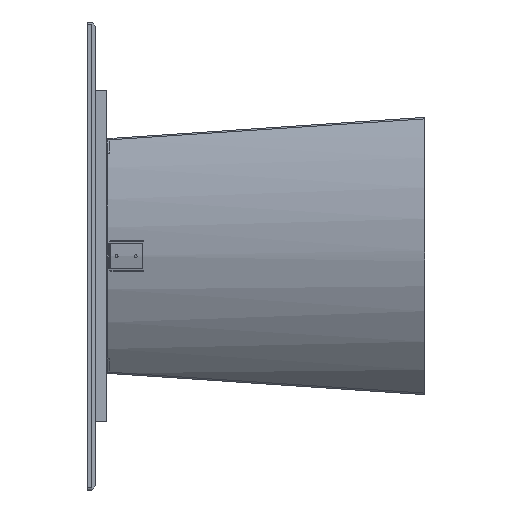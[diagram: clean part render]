
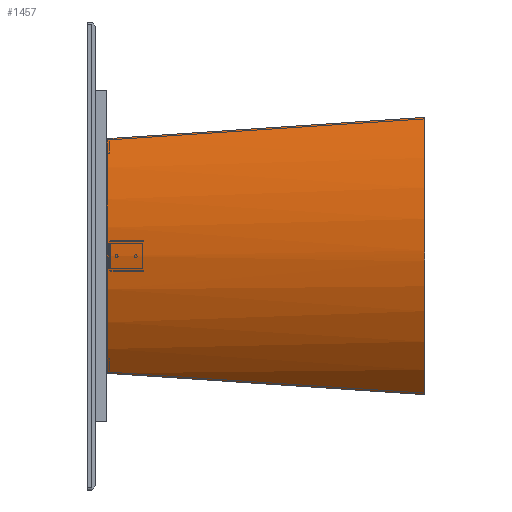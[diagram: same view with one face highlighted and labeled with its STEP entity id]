
A CAD part, left-side view. The second image highlights one B-rep face of the part: STEP entity #1457.
In plain terms, the highlighted cylindrical face has radius 455 mm (diameter 910 mm), a partial arc.
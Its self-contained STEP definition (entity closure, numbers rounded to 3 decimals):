
#158 = CARTESIAN_POINT ( 'NONE',  ( -126.14, 1.243, -3.458 ) ) ;
#187 = CARTESIAN_POINT ( 'NONE',  ( 231.469, 1.123, -48.677 ) ) ;
#377 = CARTESIAN_POINT ( 'NONE',  ( 0., 720., -186.04 ) ) ;
#430 = CARTESIAN_POINT ( 'NONE',  ( 298.867, 241.995, -177.363 ) ) ;
#452 = ORIENTED_EDGE ( 'NONE', *, *, #6420, .T. ) ;
#641 = CARTESIAN_POINT ( 'NONE',  ( -265.753, 720., -274.535 ) ) ;
#660 = CARTESIAN_POINT ( 'NONE',  ( -298.867, 241.995, -177.363 ) ) ;
#732 = EDGE_CURVE ( 'NONE', #8579, #3750, #3362, .T. ) ;
#962 = CARTESIAN_POINT ( 'NONE',  ( -265.753, 720., -274.535 ) ) ;
#1062 = CARTESIAN_POINT ( 'NONE',  ( -314.022, 0.906, -129.942 ) ) ;
#1376 = CARTESIAN_POINT ( 'NONE',  ( 282.752, 482.074, -225.637 ) ) ;
#1457 = ADVANCED_FACE ( 'NONE', ( #3130 ), #4345, .T. ) ;
#1617 = ORIENTED_EDGE ( 'NONE', *, *, #5595, .F. ) ;
#1703 = EDGE_CURVE ( 'NONE', #9450, #8579, #7478, .T. ) ;
#1944 = CARTESIAN_POINT ( 'NONE',  ( 96.167, 720., -186.04 ) ) ;
#2229 = VERTEX_POINT ( 'NONE', #2381 ) ;
#2243 = ORIENTED_EDGE ( 'NONE', *, *, #9287, .F. ) ;
#2342 = CARTESIAN_POINT ( 'NONE',  ( -314.022, 0.906, -129.942 ) ) ;
#2381 = CARTESIAN_POINT ( 'NONE',  ( -314.022, 0.906, -129.942 ) ) ;
#2395 = CARTESIAN_POINT ( 'NONE',  ( -265.753, 720., -274.535 ) ) ;
#2649 =( BOUNDED_CURVE ( )  B_SPLINE_CURVE ( 3, ( #1062, #5350, #158, #10468 ),
 .UNSPECIFIED., .F., .F. ) 
 B_SPLINE_CURVE_WITH_KNOTS ( ( 4, 4 ),
 ( 5.521, 6.257 ),
 .UNSPECIFIED. ) 
 CURVE ( )  GEOMETRIC_REPRESENTATION_ITEM ( )  RATIONAL_B_SPLINE_CURVE ( ( 1., 0.955, 0.955, 1. ) ) 
 REPRESENTATION_ITEM ( '' )  );
#2711 = CARTESIAN_POINT ( 'NONE',  ( 0., 720., -186.04 ) ) ;
#2792 = CARTESIAN_POINT ( 'NONE',  ( 265.753, 720., -274.535 ) ) ;
#3027 = DIRECTION ( 'NONE',  ( -1., 0., 0. ) ) ;
#3121 = CARTESIAN_POINT ( 'NONE',  ( 314.022, 0.906, -129.942 ) ) ;
#3130 = FACE_OUTER_BOUND ( 'NONE', #7241, .T. ) ;
#3362 =( BOUNDED_CURVE ( )  B_SPLINE_CURVE ( 3, ( #3942, #5759, #7317, #641 ),
 .UNSPECIFIED., .F., .T. ) 
 B_SPLINE_CURVE_WITH_KNOTS ( ( 4, 4 ),
 ( 0., 0.624 ),
 .UNSPECIFIED. ) 
 CURVE ( )  GEOMETRIC_REPRESENTATION_ITEM ( )  RATIONAL_B_SPLINE_CURVE ( ( 1., 0.968, 0.968, 1. ) ) 
 REPRESENTATION_ITEM ( '' )  );
#3750 = VERTEX_POINT ( 'NONE', #962 ) ;
#3942 = CARTESIAN_POINT ( 'NONE',  ( 0., 720., -186.04 ) ) ;
#4345 = CYLINDRICAL_SURFACE ( 'NONE', #5246, 455. ) ;
#4427 = ORIENTED_EDGE ( 'NONE', *, *, #732, .T. ) ;
#4469 =( BOUNDED_CURVE ( )  B_SPLINE_CURVE ( 3, ( #2342, #660, #10894, #2395 ),
 .UNSPECIFIED., .F., .F. ) 
 B_SPLINE_CURVE_WITH_KNOTS ( ( 4, 4 ),
 ( 1.582, 1.719 ),
 .UNSPECIFIED. ) 
 CURVE ( )  GEOMETRIC_REPRESENTATION_ITEM ( )  RATIONAL_B_SPLINE_CURVE ( ( 1., 0.998, 0.998, 1. ) ) 
 REPRESENTATION_ITEM ( '' )  );
#4603 = CIRCLE ( 'NONE', #5117, 455. ) ;
#4678 = CARTESIAN_POINT ( 'NONE',  ( 314.022, 0.906, -129.942 ) ) ;
#4913 = ORIENTED_EDGE ( 'NONE', *, *, #5727, .T. ) ;
#5117 = AXIS2_PLACEMENT_3D ( 'NONE', #8751, #10635, #3027 ) ;
#5246 = AXIS2_PLACEMENT_3D ( 'NONE', #6881, #6050, #8616 ) ;
#5277 = CARTESIAN_POINT ( 'NONE',  ( 187.694, 720., -216.518 ) ) ;
#5350 = CARTESIAN_POINT ( 'NONE',  ( -231.469, 1.123, -48.677 ) ) ;
#5595 = EDGE_CURVE ( 'NONE', #5642, #9817, #4603, .T. ) ;
#5642 = VERTEX_POINT ( 'NONE', #6114 ) ;
#5727 = EDGE_CURVE ( 'NONE', #2229, #9817, #2649, .T. ) ;
#5759 = CARTESIAN_POINT ( 'NONE',  ( -96.167, 720., -186.04 ) ) ;
#6043 = CARTESIAN_POINT ( 'NONE',  ( 265.753, 720., -274.535 ) ) ;
#6050 = DIRECTION ( 'NONE',  ( 0., -0.968, 0.25 ) ) ;
#6114 = CARTESIAN_POINT ( 'NONE',  ( 12.104, 1.251, -0.325 ) ) ;
#6420 = EDGE_CURVE ( 'NONE', #9176, #9450, #8610, .T. ) ;
#6881 = CARTESIAN_POINT ( 'NONE',  ( 0., 690.447, -648.367 ) ) ;
#7040 = CARTESIAN_POINT ( 'NONE',  ( 314.022, 0.906, -129.942 ) ) ;
#7241 = EDGE_LOOP ( 'NONE', ( #8964, #4427, #2243, #4913, #1617, #10142, #452 ) ) ;
#7317 = CARTESIAN_POINT ( 'NONE',  ( -187.694, 720., -216.518 ) ) ;
#7478 =( BOUNDED_CURVE ( )  B_SPLINE_CURVE ( 3, ( #2792, #5277, #1944, #377 ),
 .UNSPECIFIED., .F., .F. ) 
 B_SPLINE_CURVE_WITH_KNOTS ( ( 4, 4 ),
 ( 5.659, 6.283 ),
 .UNSPECIFIED. ) 
 CURVE ( )  GEOMETRIC_REPRESENTATION_ITEM ( )  RATIONAL_B_SPLINE_CURVE ( ( 1., 0.968, 0.968, 1. ) ) 
 REPRESENTATION_ITEM ( '' )  );
#8187 = EDGE_CURVE ( 'NONE', #5642, #9176, #9767, .T. ) ;
#8579 = VERTEX_POINT ( 'NONE', #2711 ) ;
#8603 = CARTESIAN_POINT ( 'NONE',  ( 12.104, 1.251, -0.325 ) ) ;
#8610 =( BOUNDED_CURVE ( )  B_SPLINE_CURVE ( 3, ( #4678, #430, #1376, #10613 ),
 .UNSPECIFIED., .F., .F. ) 
 B_SPLINE_CURVE_WITH_KNOTS ( ( 4, 4 ),
 ( 1.582, 1.719 ),
 .UNSPECIFIED. ) 
 CURVE ( )  GEOMETRIC_REPRESENTATION_ITEM ( )  RATIONAL_B_SPLINE_CURVE ( ( 1., 0.998, 0.998, 1. ) ) 
 REPRESENTATION_ITEM ( '' )  );
#8616 = DIRECTION ( 'NONE',  ( 0., -0.25, -0.968 ) ) ;
#8660 = CARTESIAN_POINT ( 'NONE',  ( 126.14, 1.243, -3.458 ) ) ;
#8751 = CARTESIAN_POINT ( 'NONE',  ( 0., -112.631, -440.677 ) ) ;
#8964 = ORIENTED_EDGE ( 'NONE', *, *, #1703, .T. ) ;
#9176 = VERTEX_POINT ( 'NONE', #3121 ) ;
#9287 = EDGE_CURVE ( 'NONE', #2229, #3750, #4469, .T. ) ;
#9450 = VERTEX_POINT ( 'NONE', #6043 ) ;
#9767 =( BOUNDED_CURVE ( )  B_SPLINE_CURVE ( 3, ( #8603, #8660, #187, #7040 ),
 .UNSPECIFIED., .F., .T. ) 
 B_SPLINE_CURVE_WITH_KNOTS ( ( 4, 4 ),
 ( 0.027, 0.762 ),
 .UNSPECIFIED. ) 
 CURVE ( )  GEOMETRIC_REPRESENTATION_ITEM ( )  RATIONAL_B_SPLINE_CURVE ( ( 1., 0.955, 0.955, 1. ) ) 
 REPRESENTATION_ITEM ( '' )  );
#9817 = VERTEX_POINT ( 'NONE', #10607 ) ;
#10142 = ORIENTED_EDGE ( 'NONE', *, *, #8187, .T. ) ;
#10468 = CARTESIAN_POINT ( 'NONE',  ( -12.104, 1.251, -0.325 ) ) ;
#10607 = CARTESIAN_POINT ( 'NONE',  ( -12.104, 1.251, -0.325 ) ) ;
#10613 = CARTESIAN_POINT ( 'NONE',  ( 265.753, 720., -274.535 ) ) ;
#10635 = DIRECTION ( 'NONE',  ( 0., -0.968, 0.25 ) ) ;
#10894 = CARTESIAN_POINT ( 'NONE',  ( -282.752, 482.074, -225.637 ) ) ;
